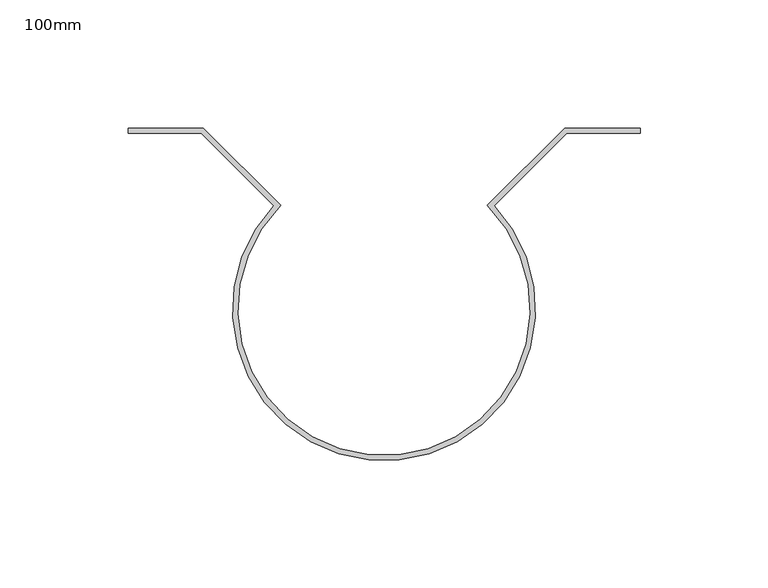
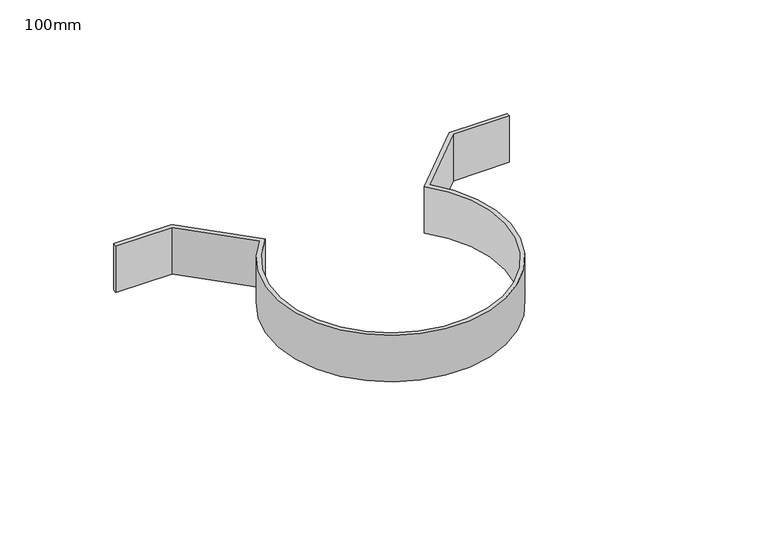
"""IFC4 building model written with IfcOpenShell, lengths in millimetres: pipe fitting geometry, AmancoWavin_Unionesdetubería_CanalesyBajantes_GazaBajanteRedondo : 100mm."""

from ifc_helpers import new_model, si_unit, point, origin, origin_with_axes, origin_2d, place, context, project, spatial, polyline, circle_curve, trimmed, segment, composite_curve, outline, extrude, source, transform, mapped, element, save


def pipe_fitting_100mm_b6b6eb0b(model_context):
    return source(origin(), model_context, "Body", "SweptSolid", [
        extrude(outline(composite_curve([segment(polyline([(-71.3989958, 68.7792466), (-100.0, 68.7792466), (-100.0, 70.779806), (-70.5705687, 70.779806), (-40.3063984, 40.5156358)]), True, "CONTINUOUS"), segment(trimmed(circle_curve(origin_2d(), 57.15), [point((-40.3063984, 40.5156358))], [point((40.3063984, 40.5156358))], True, "CARTESIAN"), True, "CONTINUOUS"), segment(polyline([(40.3063984, 40.5156358), (70.5705687, 70.779806), (100.0, 70.779806), (100.0, 68.7792466), (71.3989958, 68.7792466), (43.1147246, 40.4949753)]), True, "CONTINUOUS"), segment(trimmed(circle_curve(origin_2d(), 59.15), [point((43.1147246, 40.4949753))], [point((-43.1147246, 40.4949753))], False, "CARTESIAN"), True, "CONTINUOUS"), segment(polyline([(-43.1147246, 40.4949753), (-71.3989958, 68.7792466)]), True, "CONTINUOUS")], self_intersect=False)), origin_with_axes(), (0.0, 0.0, 1.0), 25.0),
    ])


if __name__ == "__main__":
    model = new_model("IFC4")
    model_context = context("Model", 3, world=origin())
    ifc_project = project(units=[si_unit("LENGTHUNIT", "METRE", prefix="MILLI")], contexts=[model_context])
    site = spatial("IfcSite", under=ifc_project)
    building = spatial("IfcBuilding", under=site)
    placement = place(None, origin())
    pipe_fitting_100mm_shape = pipe_fitting_100mm_b6b6eb0b(model_context)
    element("IfcPipeFitting", 1, ObjectType="AmancoWavin_Unionesdetubería_CanalesyBajantes_GazaBajanteRedondo : 100mm", at=placement, inside=building, context=model_context, shape_type="MappedRepresentation", body=[
        mapped(pipe_fitting_100mm_shape, transform((0.0, 0.0, 0.0), x_axis=(1.0, 0.0, 0.0), y_axis=(0.0, 1.0, 0.0), z_axis=(0.0, 0.0, 1.0))),
    ])
    save(model, "model.ifc")
